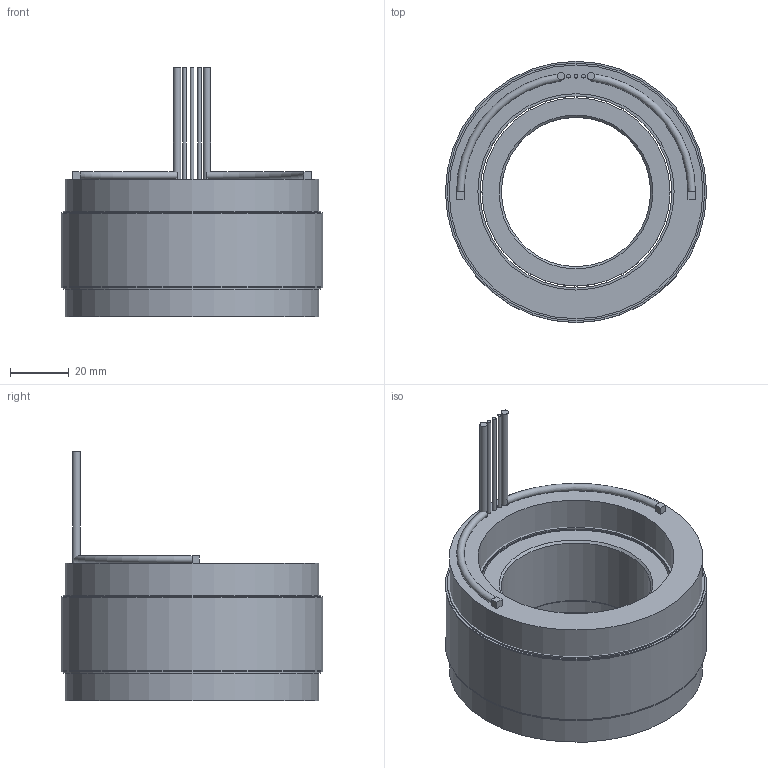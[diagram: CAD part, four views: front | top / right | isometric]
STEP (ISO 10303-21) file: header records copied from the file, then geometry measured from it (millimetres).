
FILE_DESCRIPTION (( 'STEP AP214' ), '1' );
FILE_NAME ('6100378-01.STEP', '2020-06-23T15:55:25', ( '' ), ( '' ), 'SwSTEP 2.0', 'SolidWorks 2016', '' );
FILE_SCHEMA (( 'AUTOMOTIVE_DESIGN' ));
Length unit declared in the file: inch
Products named in the file (10): 4400100-00; 4450187-XX_4450187-01; 4500552-XX_4500552-01; 4600562-00; 4250372-XX_4250372-01; 6100378-01; 4150176-XX_4150176-01; comp4500552-XX(COIL)_comp4500552-01(COIL)
Assembly tree (10 placements, depth 4):
  6100378-01
    4500552-XX_4500552-01
      4450187-XX_4450187-01
        4450187-XX_4450187-01
        4400100-00
        4400100-00
        4600562-00  x2
      comp4500552-XX(COIL)_comp4500552-01(COIL)
    4250372-XX_4250372-01
      4150176-XX_4150176-01
Bounding box: 88.9 x 88.9 x 84.84 mm (x, y, z)
Volume: 216636.1 mm3; surface area: 81354.6 mm2
Topology: 11 solids, 11 shells, 58 faces, 91 edges, 60 vertices
Faces by surface type: plane 35, cylinder 19, torus 2, cone 2
Full cylindrical faces by diameter (mm): 1.27 x3, 2.54 x2, 50.8 x1, 64.008 x1, 65.278 x5, 66.801 x1, 86.36 x1, 87.63 x2, 88.9 x3
Entity records: 1612 total; most frequent: DIRECTION 244, CARTESIAN_POINT 190, ORIENTED_EDGE 128, AXIS2_PLACEMENT_3D 110, EDGE_LOOP 92, FACE_OUTER_BOUND 73, EDGE_CURVE 64, VERTEX_POINT 56
